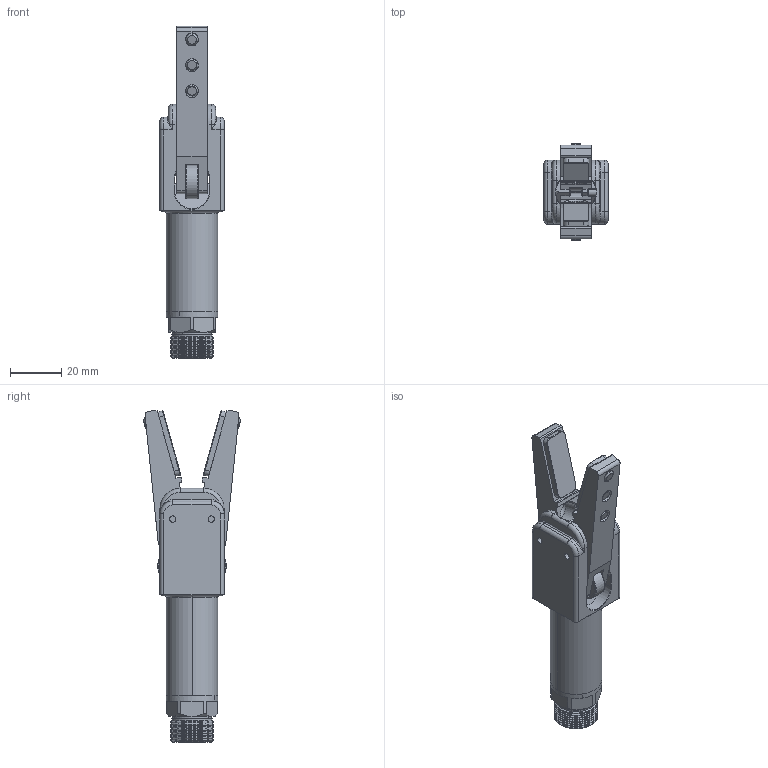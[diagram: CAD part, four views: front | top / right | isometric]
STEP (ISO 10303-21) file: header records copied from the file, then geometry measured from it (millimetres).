
FILE_DESCRIPTION (( 'STEP AP214' ), '1' );
FILE_NAME ('GRT20D.STEP', '2019-12-17T02:55:45', ( '微软用户' ), ( '微软中国' ), 'SwSTEP 2.0', 'SolidWorks 2016', '' );
FILE_SCHEMA (( 'AUTOMOTIVE_DESIGN' ));
Length unit declared in the file: millimetre
Products named in the file (1): GRT20D
Bounding box: 25 x 38.15 x 129.57 mm (x, y, z)
Volume: 39316 mm3; surface area: 28851.4 mm2
Topology: 12 solids, 12 shells, 790 faces, 1795 edges, 1062 vertices
Faces by surface type: cylinder 274, cone 223, plane 213, torus 56, bspline 24
Entity records: 31990 total; most frequent: CARTESIAN_POINT 5108, DIRECTION 4053, ORIENTED_EDGE 3578, EDGE_CURVE 1789, AXIS2_PLACEMENT_3D 1605, VERTEX_POINT 1062, EDGE_LOOP 881, VECTOR 843
